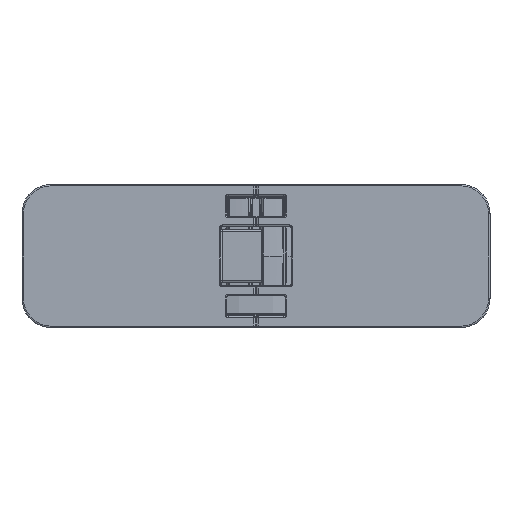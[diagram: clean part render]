
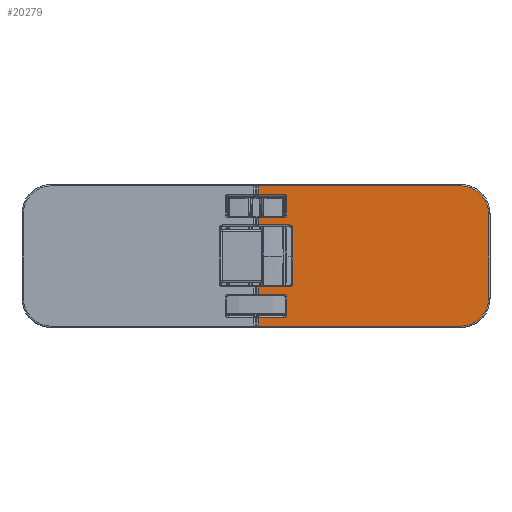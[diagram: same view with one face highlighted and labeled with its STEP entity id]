
A CAD part, top view. The second image highlights one B-rep face of the part: STEP entity #20279.
In plain terms, the highlighted planar face has unit normal (0, 0, 1).
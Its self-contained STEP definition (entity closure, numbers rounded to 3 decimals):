
#2083=LINE('',#38836,#3148);
#2084=LINE('',#38839,#3149);
#2085=LINE('',#38841,#3150);
#2086=LINE('',#38845,#3151);
#2087=LINE('',#38849,#3152);
#2088=LINE('',#38851,#3153);
#2089=LINE('',#38853,#3154);
#2090=LINE('',#38857,#3155);
#2091=LINE('',#38861,#3156);
#2092=LINE('',#38863,#3157);
#2093=LINE('',#38865,#3158);
#2094=LINE('',#38869,#3159);
#2095=LINE('',#38873,#3160);
#2096=LINE('',#38875,#3161);
#2097=LINE('',#38877,#3162);
#2098=LINE('',#38881,#3163);
#3148=VECTOR('',#32234,1000.);
#3149=VECTOR('',#32235,1000.);
#3150=VECTOR('',#32236,1000.);
#3151=VECTOR('',#32239,1000.);
#3152=VECTOR('',#32242,1000.);
#3153=VECTOR('',#32243,1000.);
#3154=VECTOR('',#32244,1000.);
#3155=VECTOR('',#32247,1000.);
#3156=VECTOR('',#32250,1000.);
#3157=VECTOR('',#32251,1000.);
#3158=VECTOR('',#32252,1000.);
#3159=VECTOR('',#32255,1000.);
#3160=VECTOR('',#32258,1000.);
#3161=VECTOR('',#32259,1000.);
#3162=VECTOR('',#32260,1000.);
#3163=VECTOR('',#32263,1000.);
#4233=ORIENTED_EDGE('',*,*,#10689,.T.);
#4234=ORIENTED_EDGE('',*,*,#10690,.T.);
#4235=ORIENTED_EDGE('',*,*,#10691,.T.);
#4236=ORIENTED_EDGE('',*,*,#10692,.T.);
#4237=ORIENTED_EDGE('',*,*,#10693,.T.);
#4238=ORIENTED_EDGE('',*,*,#10694,.T.);
#4239=ORIENTED_EDGE('',*,*,#10695,.T.);
#4240=ORIENTED_EDGE('',*,*,#10696,.T.);
#4241=ORIENTED_EDGE('',*,*,#10697,.T.);
#4242=ORIENTED_EDGE('',*,*,#10698,.F.);
#4243=ORIENTED_EDGE('',*,*,#10699,.T.);
#4244=ORIENTED_EDGE('',*,*,#10700,.F.);
#4245=ORIENTED_EDGE('',*,*,#10701,.T.);
#4246=ORIENTED_EDGE('',*,*,#10702,.T.);
#4247=ORIENTED_EDGE('',*,*,#10703,.T.);
#4248=ORIENTED_EDGE('',*,*,#10704,.F.);
#4249=ORIENTED_EDGE('',*,*,#10705,.T.);
#4250=ORIENTED_EDGE('',*,*,#10706,.F.);
#4251=ORIENTED_EDGE('',*,*,#10707,.T.);
#4252=ORIENTED_EDGE('',*,*,#10708,.T.);
#4253=ORIENTED_EDGE('',*,*,#10709,.T.);
#4254=ORIENTED_EDGE('',*,*,#10710,.F.);
#4255=ORIENTED_EDGE('',*,*,#10711,.T.);
#4256=ORIENTED_EDGE('',*,*,#10712,.F.);
#10689=EDGE_CURVE('',#13917,#13918,#2083,.T.);
#10690=EDGE_CURVE('',#13918,#13919,#2084,.F.);
#10691=EDGE_CURVE('',#13919,#13920,#2085,.T.);
#10692=EDGE_CURVE('',#13920,#13921,#15603,.F.);
#10693=EDGE_CURVE('',#13921,#13922,#2086,.T.);
#10694=EDGE_CURVE('',#13922,#13923,#15604,.F.);
#10695=EDGE_CURVE('',#13923,#13924,#2087,.F.);
#10696=EDGE_CURVE('',#13924,#13925,#2088,.T.);
#10697=EDGE_CURVE('',#13925,#13926,#2089,.F.);
#10698=EDGE_CURVE('',#13927,#13926,#15605,.F.);
#10699=EDGE_CURVE('',#13927,#13928,#2090,.T.);
#10700=EDGE_CURVE('',#13929,#13928,#15606,.F.);
#10701=EDGE_CURVE('',#13929,#13930,#2091,.F.);
#10702=EDGE_CURVE('',#13930,#13931,#2092,.T.);
#10703=EDGE_CURVE('',#13931,#13932,#2093,.F.);
#10704=EDGE_CURVE('',#13933,#13932,#15607,.F.);
#10705=EDGE_CURVE('',#13933,#13934,#2094,.F.);
#10706=EDGE_CURVE('',#13935,#13934,#15608,.F.);
#10707=EDGE_CURVE('',#13935,#13936,#2095,.F.);
#10708=EDGE_CURVE('',#13936,#13937,#2096,.F.);
#10709=EDGE_CURVE('',#13937,#13938,#2097,.T.);
#10710=EDGE_CURVE('',#13939,#13938,#15609,.F.);
#10711=EDGE_CURVE('',#13939,#13940,#2098,.F.);
#10712=EDGE_CURVE('',#13917,#13940,#15610,.F.);
#13917=VERTEX_POINT('',#38837);
#13918=VERTEX_POINT('',#38838);
#13919=VERTEX_POINT('',#38840);
#13920=VERTEX_POINT('',#38842);
#13921=VERTEX_POINT('',#38844);
#13922=VERTEX_POINT('',#38846);
#13923=VERTEX_POINT('',#38848);
#13924=VERTEX_POINT('',#38850);
#13925=VERTEX_POINT('',#38852);
#13926=VERTEX_POINT('',#38854);
#13927=VERTEX_POINT('',#38856);
#13928=VERTEX_POINT('',#38858);
#13929=VERTEX_POINT('',#38860);
#13930=VERTEX_POINT('',#38862);
#13931=VERTEX_POINT('',#38864);
#13932=VERTEX_POINT('',#38866);
#13933=VERTEX_POINT('',#38868);
#13934=VERTEX_POINT('',#38870);
#13935=VERTEX_POINT('',#38872);
#13936=VERTEX_POINT('',#38874);
#13937=VERTEX_POINT('',#38876);
#13938=VERTEX_POINT('',#38878);
#13939=VERTEX_POINT('',#38880);
#13940=VERTEX_POINT('',#38882);
#15603=CIRCLE('',#29446,4.75);
#15604=CIRCLE('',#29447,4.75);
#15605=CIRCLE('',#29448,0.5);
#15606=CIRCLE('',#29449,0.5);
#15607=CIRCLE('',#29450,0.5);
#15608=CIRCLE('',#29451,0.5);
#15609=CIRCLE('',#29452,0.5);
#15610=CIRCLE('',#29453,0.5);
#16958=EDGE_LOOP('',(#4233,#4234,#4235,#4236,#4237,#4238,#4239,#4240,#4241,
#4242,#4243,#4244,#4245,#4246,#4247,#4248,#4249,#4250,#4251,#4252,#4253,
#4254,#4255,#4256));
#18478=FACE_BOUND('',#16958,.T.);
#19997=PLANE('',#29445);
#20279=ADVANCED_FACE('',(#18478),#19997,.F.);
#29445=AXIS2_PLACEMENT_3D('',#38835,#32232,#32233);
#29446=AXIS2_PLACEMENT_3D('',#38843,#32237,#32238);
#29447=AXIS2_PLACEMENT_3D('',#38847,#32240,#32241);
#29448=AXIS2_PLACEMENT_3D('',#38855,#32245,#32246);
#29449=AXIS2_PLACEMENT_3D('',#38859,#32248,#32249);
#29450=AXIS2_PLACEMENT_3D('',#38867,#32253,#32254);
#29451=AXIS2_PLACEMENT_3D('',#38871,#32256,#32257);
#29452=AXIS2_PLACEMENT_3D('',#38879,#32261,#32262);
#29453=AXIS2_PLACEMENT_3D('',#38883,#32264,#32265);
#32232=DIRECTION('',(0.,0.,-1.));
#32233=DIRECTION('',(0.,1.,0.));
#32234=DIRECTION('',(-1.,0.,0.));
#32235=DIRECTION('',(0.,1.,0.));
#32236=DIRECTION('',(1.,0.,0.));
#32237=DIRECTION('',(0.,0.,-1.));
#32238=DIRECTION('',(0.,1.,0.));
#32239=DIRECTION('',(0.,1.,0.));
#32240=DIRECTION('',(0.,0.,-1.));
#32241=DIRECTION('',(0.,1.,0.));
#32242=DIRECTION('',(1.,0.,0.));
#32243=DIRECTION('',(0.,-1.,0.));
#32244=DIRECTION('',(-1.,0.,0.));
#32245=DIRECTION('',(0.,0.,-1.));
#32246=DIRECTION('',(0.,1.,0.));
#32247=DIRECTION('',(0.,-1.,0.));
#32248=DIRECTION('',(0.,0.,-1.));
#32249=DIRECTION('',(0.,1.,0.));
#32250=DIRECTION('',(1.,0.,0.));
#32251=DIRECTION('',(0.,-1.,0.));
#32252=DIRECTION('',(-1.,0.,0.));
#32253=DIRECTION('',(0.,0.,-1.));
#32254=DIRECTION('',(0.,1.,0.));
#32255=DIRECTION('',(0.,1.,0.));
#32256=DIRECTION('',(0.,0.,-1.));
#32257=DIRECTION('',(0.,1.,0.));
#32258=DIRECTION('',(1.,0.,0.));
#32259=DIRECTION('',(0.,1.,0.));
#32260=DIRECTION('',(1.,0.,0.));
#32261=DIRECTION('',(0.,0.,-1.));
#32262=DIRECTION('',(0.,1.,0.));
#32263=DIRECTION('',(0.,1.,0.));
#32264=DIRECTION('',(0.,0.,-1.));
#32265=DIRECTION('',(0.,1.,0.));
#38835=CARTESIAN_POINT('',(-40.,0.,5.));
#38836=CARTESIAN_POINT('',(-40.,-10.5,5.));
#38837=CARTESIAN_POINT('',(4.75,-10.5,5.));
#38838=CARTESIAN_POINT('',(0.35,-10.5,5.));
#38839=CARTESIAN_POINT('',(0.35,0.,5.));
#38840=CARTESIAN_POINT('',(0.35,-12.,5.));
#38841=CARTESIAN_POINT('',(-40.,-12.,5.));
#38842=CARTESIAN_POINT('',(35.,-12.,5.));
#38843=CARTESIAN_POINT('',(35.,-7.25,5.));
#38844=CARTESIAN_POINT('',(39.75,-7.25,5.));
#38845=CARTESIAN_POINT('',(39.75,0.,5.));
#38846=CARTESIAN_POINT('',(39.75,7.25,5.));
#38847=CARTESIAN_POINT('',(35.,7.25,5.));
#38848=CARTESIAN_POINT('',(35.,12.,5.));
#38849=CARTESIAN_POINT('',(-40.,12.,5.));
#38850=CARTESIAN_POINT('',(0.35,12.,5.));
#38851=CARTESIAN_POINT('',(0.35,10.25,5.));
#38852=CARTESIAN_POINT('',(0.35,10.5,5.));
#38853=CARTESIAN_POINT('',(-40.,10.5,5.));
#38854=CARTESIAN_POINT('',(4.75,10.5,5.));
#38855=CARTESIAN_POINT('',(4.75,10.,5.));
#38856=CARTESIAN_POINT('',(5.25,10.,5.));
#38857=CARTESIAN_POINT('',(5.25,0.,5.));
#38858=CARTESIAN_POINT('',(5.25,7.,5.));
#38859=CARTESIAN_POINT('',(4.75,7.,5.));
#38860=CARTESIAN_POINT('',(4.75,6.5,5.));
#38861=CARTESIAN_POINT('',(-40.,6.5,5.));
#38862=CARTESIAN_POINT('',(0.35,6.5,5.));
#38863=CARTESIAN_POINT('',(0.35,5.05,5.));
#38864=CARTESIAN_POINT('',(0.35,5.3,5.));
#38865=CARTESIAN_POINT('',(-40.,5.3,5.));
#38866=CARTESIAN_POINT('',(5.75,5.3,5.));
#38867=CARTESIAN_POINT('',(5.75,4.8,5.));
#38868=CARTESIAN_POINT('',(6.25,4.8,5.));
#38869=CARTESIAN_POINT('',(6.25,0.,5.));
#38870=CARTESIAN_POINT('',(6.25,-4.8,5.));
#38871=CARTESIAN_POINT('',(5.75,-4.8,5.));
#38872=CARTESIAN_POINT('',(5.75,-5.3,5.));
#38873=CARTESIAN_POINT('',(-40.,-5.3,5.));
#38874=CARTESIAN_POINT('',(0.35,-5.3,5.));
#38875=CARTESIAN_POINT('',(0.35,0.,5.));
#38876=CARTESIAN_POINT('',(0.35,-6.5,5.));
#38877=CARTESIAN_POINT('',(-40.,-6.5,5.));
#38878=CARTESIAN_POINT('',(4.75,-6.5,5.));
#38879=CARTESIAN_POINT('',(4.75,-7.,5.));
#38880=CARTESIAN_POINT('',(5.25,-7.,5.));
#38881=CARTESIAN_POINT('',(5.25,0.,5.));
#38882=CARTESIAN_POINT('',(5.25,-10.,5.));
#38883=CARTESIAN_POINT('',(4.75,-10.,5.));
